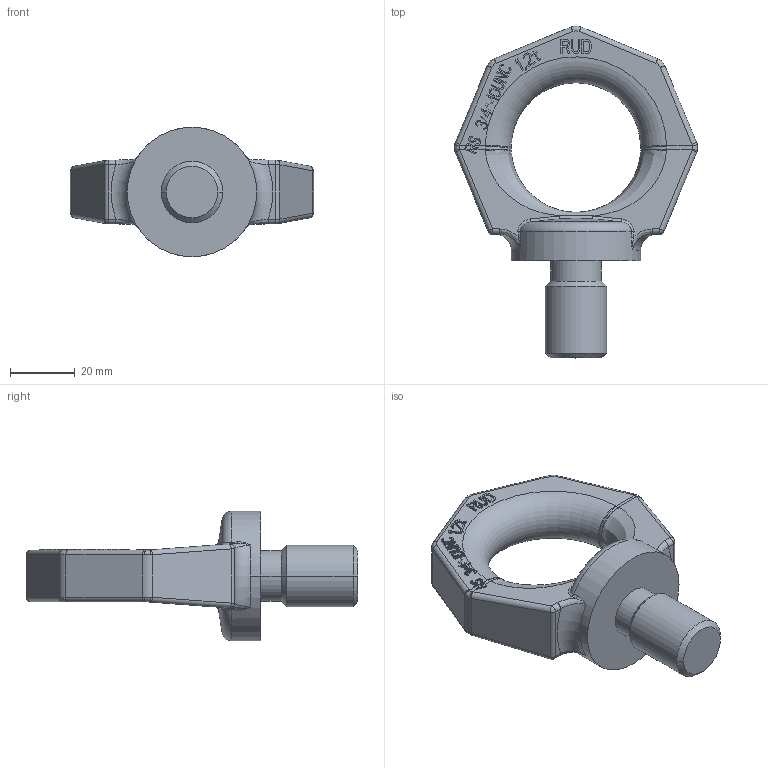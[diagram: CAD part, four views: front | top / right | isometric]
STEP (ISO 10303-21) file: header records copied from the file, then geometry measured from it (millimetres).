
FILE_DESCRIPTION((''),'2;1');
FILE_NAME('001-M31076-X15_ASM','2005-01-11T',('jakubetz'),(''),'PRO/ENGINEER BY PARAMETRIC TECHNOLOGY CORPORATION, 2001400','PRO/ENGINEER BY PARAMETRIC TECHNOLOGY CORPORATION, 2001400','');
FILE_SCHEMA(('CONFIG_CONTROL_DESIGN'));
Length unit declared in the file: millimetre
Products named in the file (3): 001-M31076-X15; 001-M31076-Y15; 001-M31076-X15_ASM
Assembly tree (2 placements, depth 2):
  001-M31076-X15_ASM
    001-M31076-X15
    001-M31076-Y15
Bounding box: 75.09 x 102.54 x 40 mm (x, y, z)
Volume: 59976.9 mm3; surface area: 14336.4 mm2
Topology: 2 solids, 2 shells, 581 faces, 1582 edges, 1026 vertices
Faces by surface type: plane 474, bspline 44, cylinder 38, torus 15, cone 6, sphere 4
Entity records: 20579 total; most frequent: CARTESIAN_POINT 6134, ORIENTED_EDGE 3164, DIRECTION 2668, EDGE_CURVE 1582, VECTOR 1356, LINE 1356, VERTEX_POINT 1026, AXIS2_PLACEMENT_3D 656
